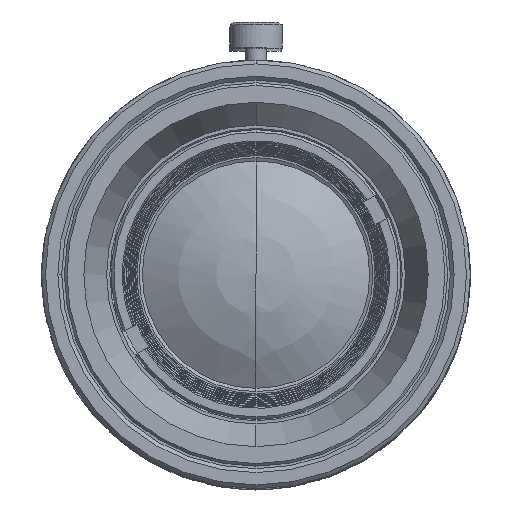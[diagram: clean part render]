
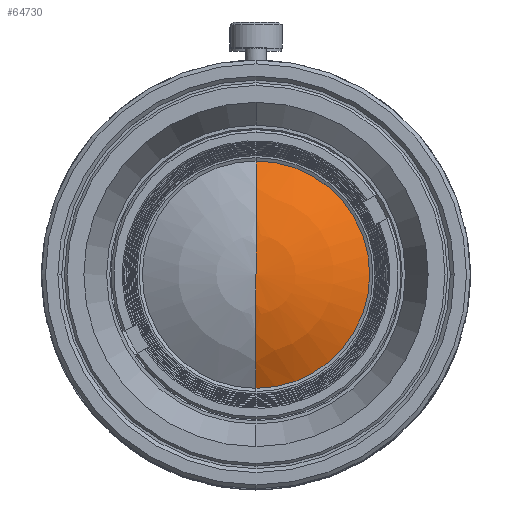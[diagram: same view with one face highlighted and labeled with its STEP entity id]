
A CAD part, top view. The second image highlights one B-rep face of the part: STEP entity #64730.
In plain terms, the highlighted spherical face has radius 16.735 mm.
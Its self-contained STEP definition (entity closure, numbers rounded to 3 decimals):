
#53870=CARTESIAN_POINT('',(8.75,0.,-41.554))
;
#53880=VERTEX_POINT('',#53870);
#53910=CARTESIAN_POINT('',(0.,0.,
-41.554));
#53920=DIRECTION('',(0.,0.,-1.));
#53930=DIRECTION('',(-1.,0.,0.));
#53940=AXIS2_PLACEMENT_3D('',#53910,#53920,#53930);
#53950=CIRCLE('',#53940,8.75);
#53960=CARTESIAN_POINT('',(-8.75,0.,
-41.554));
#53970=VERTEX_POINT('',#53960);
#53980=EDGE_CURVE('',#53880,#53970,#53950,.T.);
#64540=CARTESIAN_POINT('',(0.,0.,
-27.289));
#64550=DIRECTION('',(0.,0.,1.));
#64560=DIRECTION('',(1.,0.,0.));
#64570=AXIS2_PLACEMENT_3D('',#64540,#64550,#64560);
#64580=SPHERICAL_SURFACE('',#64570,16.735);
#64590=CARTESIAN_POINT('',(0.,0.,
-27.289));
#64600=DIRECTION('',(0.,1.,0.));
#64610=DIRECTION('',(1.,0.,0.));
#64620=AXIS2_PLACEMENT_3D('',#64590,#64600,#64610);
#64630=CIRCLE('',#64620,16.735);
#64640=CARTESIAN_POINT('',(0.,0.,
-44.024));
#64650=VERTEX_POINT('',#64640);
#64660=EDGE_CURVE('',#53880,#64650,#64630,.T.);
#64670=ORIENTED_EDGE('',*,*,#64660,.F.);
#64680=EDGE_CURVE('',#64650,#53970,#64630,.T.);
#64690=ORIENTED_EDGE('',*,*,#64680,.F.);
#64700=ORIENTED_EDGE('',*,*,#53980,.T.);
#64710=EDGE_LOOP('',(#64700,#64690,#64670));
#64720=FACE_OUTER_BOUND('',#64710,.T.);
#64730=ADVANCED_FACE('',(#64720),#64580,.T.);
